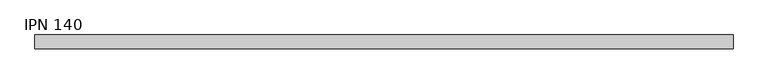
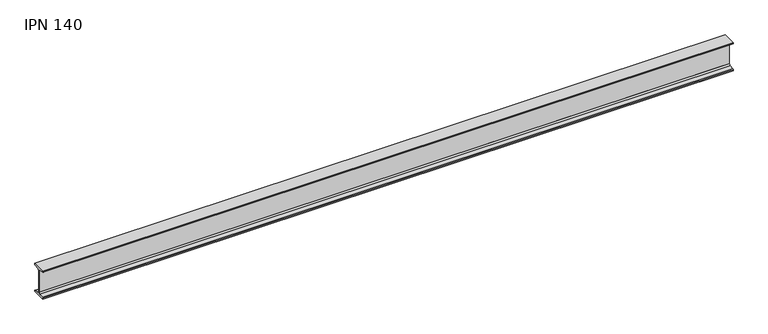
"""IFC4 building model written with IfcOpenShell, lengths in millimetres: beam geometry, IPN - Secciones en I con alas cónicas : IPN 140."""

from ifc_helpers import new_model, si_unit, point, frame, frame_2d, origin, place, context, project, spatial, polyline, circle_curve, trimmed, segment, composite_curve, outline, extrude, source, transform, mapped, element, save


def ipn_140_ef176ace(model_context):
    return source(origin(), model_context, "Body", "SweptSolid", [
        extrude(outline(composite_curve([segment(polyline([(33.0, 70.0), (33.0, 66.6671583)]), True, "CONTINUOUS"), segment(trimmed(circle_curve(frame_2d((29.6, 66.6671583)), 3.4), [point((33.0, 66.6671583))], [point((30.0714027, 63.2999964))], False, "CARTESIAN"), True, "CONTINUOUS"), segment(polyline([(30.0714027, 63.2999964), (7.7597073, 60.176359)]), True, "CONTINUOUS"), segment(trimmed(circle_curve(frame_2d((8.55, 54.5314111)), 5.7), [point((7.7597073, 60.176359))], [point((2.85, 54.5314111))], True, "CARTESIAN"), True, "CONTINUOUS"), segment(polyline([(2.85, 54.5314111), (2.85, -54.5314111)]), True, "CONTINUOUS"), segment(trimmed(circle_curve(frame_2d((8.55, -54.5314111)), 5.7), [point((2.85, -54.5314111))], [point((7.7597073, -60.176359))], True, "CARTESIAN"), True, "CONTINUOUS"), segment(polyline([(7.7597073, -60.176359), (30.0714027, -63.2999964)]), True, "CONTINUOUS"), segment(trimmed(circle_curve(frame_2d((29.6, -66.6671583)), 3.4), [point((30.0714027, -63.2999964))], [point((33.0, -66.6671583))], False, "CARTESIAN"), True, "CONTINUOUS"), segment(polyline([(33.0, -66.6671583), (33.0, -70.0), (-33.0, -70.0), (-33.0, -66.6671583)]), True, "CONTINUOUS"), segment(trimmed(circle_curve(frame_2d((-29.6, -66.6671583)), 3.4), [point((-33.0, -66.6671583))], [point((-30.0714027, -63.2999964))], False, "CARTESIAN"), True, "CONTINUOUS"), segment(polyline([(-30.0714027, -63.2999964), (-7.7597073, -60.176359)]), True, "CONTINUOUS"), segment(trimmed(circle_curve(frame_2d((-8.55, -54.5314111)), 5.7), [point((-7.7597073, -60.176359))], [point((-2.85, -54.5314111))], True, "CARTESIAN"), True, "CONTINUOUS"), segment(polyline([(-2.85, -54.5314111), (-2.85, 54.5314111)]), True, "CONTINUOUS"), segment(trimmed(circle_curve(frame_2d((-8.55, 54.5314111)), 5.7), [point((-2.85, 54.5314111))], [point((-7.7597073, 60.176359))], True, "CARTESIAN"), True, "CONTINUOUS"), segment(polyline([(-7.7597073, 60.176359), (-30.0714027, 63.2999964)]), True, "CONTINUOUS"), segment(trimmed(circle_curve(frame_2d((-29.6, 66.6671583)), 3.4), [point((-30.0714027, 63.2999964))], [point((-33.0, 66.6671583))], False, "CARTESIAN"), True, "CONTINUOUS"), segment(polyline([(-33.0, 66.6671583), (-33.0, 70.0), (33.0, 70.0)]), True, "CONTINUOUS")], self_intersect=False)), frame((-1643.0, 0.0, 0.0), z_axis=(1.0, 0.0, 0.0), x_axis=(0.0, 1.0, 0.0)), (0.0, 0.0, 1.0), 3301.0),
    ])


if __name__ == "__main__":
    model = new_model("IFC4")
    model_context = context("Model", 3, world=origin())
    ifc_project = project(units=[si_unit("LENGTHUNIT", "METRE", prefix="MILLI")], contexts=[model_context])
    site = spatial("IfcSite", under=ifc_project)
    building = spatial("IfcBuilding", under=site)
    placement = place(None, origin())
    ipn_140_shape = ipn_140_ef176ace(model_context)
    element("IfcBeam", 1, ObjectType="IPN - Secciones en I con alas cónicas : IPN 140", at=placement, inside=building, context=model_context, shape_type="MappedRepresentation", body=[
        mapped(ipn_140_shape, transform((0.0, 0.0, 0.0), x_axis=(1.0, 0.0, 0.0), y_axis=(0.0, 1.0, 0.0), z_axis=(0.0, 0.0, 1.0))),
    ])
    save(model, "model.ifc")
